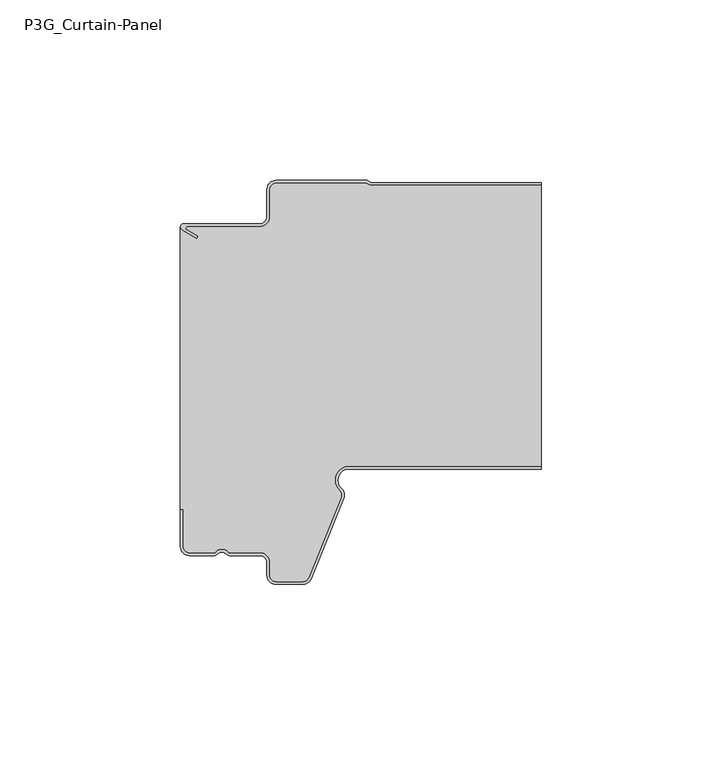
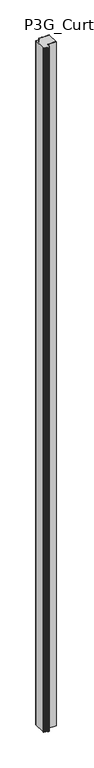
"""IFC4 building model written with IfcOpenShell, lengths in millimetres: plate geometry, P3G_Curtain-Panel : ACH_P3G_3-Rib-Roof-Panel_80M."""

import ifcopenshell
import ifcopenshell.guid

model = None  # the IFC model being written
_history = None  # IfcOwnerHistory: only IFC2X3 demands one
_inside = {}  # id of a spatial element -> (the spatial element, [elements in it])
_under = {}  # id of a project, library or spatial element -> (it, [spatial elements below it])
_declared = {}  # id of a project -> (the project, [libraries it declares])
_typed = {}  # id of a type object -> (the type object, [elements of that type])
_made_of = {}  # id of a material, layer set ... -> (it, [elements and type objects made of it])


def new_model(schema):
    """Start an empty IFC model of exactly this schema.

    Asked for "IFC4X3", IfcOpenShell would pick the latest addendum, in which some entities
    have other attributes; the version numbers below select the first issue.
    IFC2X3 requires an IfcOwnerHistory on every rooted entity: one is made here for all.
    """
    global model, _history
    if schema == "IFC4X3":
        model = ifcopenshell.file(schema_version=(4, 3, 0, 0))
    else:
        model = ifcopenshell.file(schema=schema)
    _inside.clear()
    _under.clear()
    _declared.clear()
    _typed.clear()
    _made_of.clear()
    _history = None
    if model.schema == "IFC2X3":
        org = make("IfcOrganization", Name="unknown")
        user = make(
            "IfcPersonAndOrganization",
            ThePerson=make("IfcPerson", FamilyName="unknown"),
            TheOrganization=org,
        )
        app = make(
            "IfcApplication",
            ApplicationDeveloper=org,
            Version="unknown",
            ApplicationFullName="unknown",
            ApplicationIdentifier="unknown",
        )
        _history = make(
            "IfcOwnerHistory",
            OwningUser=user,
            OwningApplication=app,
            ChangeAction="ADDED",
            CreationDate=0,
        )
    return model


def make(cls, **values):
    """One entity of the class cls with the attributes given. An attribute that is None is left unset."""
    return model.create_entity(
        cls, **{name: value for name, value in values.items() if value is not None}
    )


def rooted(cls, **values):
    """An entity with a GlobalId (a new one), such as an element, a storey or a relation."""
    return make(cls, GlobalId=ifcopenshell.guid.new(), OwnerHistory=_history, **values)


def si_unit(unit_type, name, prefix=None):
    """IfcSIUnit, for example si_unit("LENGTHUNIT", "METRE", prefix="MILLI")."""
    return make("IfcSIUnit", UnitType=unit_type, Prefix=prefix, Name=name)


def assignment(units):
    """IfcUnitAssignment: the units of a project."""
    return None if units is None else make("IfcUnitAssignment", Units=units)


def point(xyz):
    """IfcCartesianPoint."""
    return None if xyz is None else make("IfcCartesianPoint", Coordinates=xyz)


def direction(xyz):
    """IfcDirection."""
    return None if xyz is None else make("IfcDirection", DirectionRatios=xyz)


def frame(location, z_axis=None, x_axis=None):
    """IfcAxis2Placement3D, a coordinate frame: its origin and axes. An axis left out is left unset."""
    return make(
        "IfcAxis2Placement3D",
        Location=point(location),
        Axis=direction(z_axis),
        RefDirection=direction(x_axis),
    )


def frame_2d(location, x_axis=None):
    """IfcAxis2Placement2D, a coordinate frame in the plane: its origin and x axis."""
    return make(
        "IfcAxis2Placement2D", Location=point(location), RefDirection=direction(x_axis)
    )


def origin():
    """The frame at (0, 0, 0) with its axes left unset."""
    return frame((0.0, 0.0, 0.0))


def origin_with_axes():
    """The frame at (0, 0, 0) with the z axis (0, 0, 1) and the x axis (1, 0, 0) written out."""
    return frame((0.0, 0.0, 0.0), z_axis=(0.0, 0.0, 1.0), x_axis=(1.0, 0.0, 0.0))


def place(relative_to, where):
    """IfcLocalPlacement: puts the frame where relative to a parent placement (None: the world)."""
    return make(
        "IfcLocalPlacement", PlacementRelTo=relative_to, RelativePlacement=where
    )


def context(
    kind, dimensions, precision=None, world=None, true_north=None, identifier=None
):
    """IfcGeometricRepresentationContext, for example the 3D "Model" context."""
    return make(
        "IfcGeometricRepresentationContext",
        ContextIdentifier=identifier,
        ContextType=kind,
        CoordinateSpaceDimension=dimensions,
        Precision=precision,
        WorldCoordinateSystem=world,
        TrueNorth=true_north,
    )


def project(units=None, contexts=None):
    """IfcProject with its units and contexts."""
    return rooted(
        "IfcProject",
        Name="project",
        RepresentationContexts=contexts,
        UnitsInContext=assignment(units),
    )


def spatial(cls, under=None, at=None, **own):
    """A site, building, storey or space (cls), placed at a placement, below another one or the project."""
    s = rooted(cls, ObjectPlacement=at, **own)
    if under is not None:
        _under.setdefault(under.id(), (under, []))[1].append(s)
    return s


def polyline(points):
    """IfcPolyline through the points."""
    return make("IfcPolyline", Points=[point(p) for p in points])


def circle_curve(where, radius):
    """IfcCircle in the frame where."""
    return make("IfcCircle", Position=where, Radius=radius)


def trimmed(basis, trim1, trim2, sense, master):
    """IfcTrimmedCurve: the piece of a basis curve between two trims."""
    return make(
        "IfcTrimmedCurve",
        BasisCurve=basis,
        Trim1=trim1,
        Trim2=trim2,
        SenseAgreement=sense,
        MasterRepresentation=master,
    )


def segment(curve, same_sense, transition):
    """IfcCompositeCurveSegment."""
    return make(
        "IfcCompositeCurveSegment",
        Transition=transition,
        SameSense=same_sense,
        ParentCurve=curve,
    )


def composite_curve(segments, self_intersect=None):
    """IfcCompositeCurve: segments joined end to end."""
    return make("IfcCompositeCurve", Segments=segments, SelfIntersect=self_intersect)


def outline(outer, holes=None, kind="AREA"):
    """IfcArbitraryClosedProfileDef: a profile drawn as a closed curve; with holes, ...WithVoids."""
    if holes is None:
        return make("IfcArbitraryClosedProfileDef", ProfileType=kind, OuterCurve=outer)
    return make(
        "IfcArbitraryProfileDefWithVoids",
        ProfileType=kind,
        OuterCurve=outer,
        InnerCurves=holes,
    )


def extrude(swept, where, along, depth):
    """IfcExtrudedAreaSolid: the profile swept, set in the frame where, extruded along a direction by depth."""
    return make(
        "IfcExtrudedAreaSolid",
        SweptArea=swept,
        Position=where,
        ExtrudedDirection=direction(along),
        Depth=depth,
    )


def shape(context_of_items, identifier, shape_type, items):
    """IfcShapeRepresentation: the items that make up one representation, for example the "Body"."""
    return make(
        "IfcShapeRepresentation",
        ContextOfItems=context_of_items,
        RepresentationIdentifier=identifier,
        RepresentationType=shape_type,
        Items=items,
    )


def source(mapping_origin, context_of_items, identifier, shape_type, items):
    """IfcRepresentationMap: a shape defined once, which mapped items show again and again."""
    return make(
        "IfcRepresentationMap",
        MappingOrigin=mapping_origin,
        MappedRepresentation=shape(context_of_items, identifier, shape_type, items),
    )


def transform(
    local_origin,
    x_axis=None,
    y_axis=None,
    z_axis=None,
    scale=None,
    scale2=None,
    scale3=None,
    uniform=True,
):
    """IfcCartesianTransformationOperator3D, or its non-uniform kind. x_axis, y_axis, z_axis: its Axis1, 2, 3."""
    if uniform:
        return make(
            "IfcCartesianTransformationOperator3D",
            Axis1=direction(x_axis),
            Axis2=direction(y_axis),
            LocalOrigin=point(local_origin),
            Scale=scale,
            Axis3=direction(z_axis),
        )
    return make(
        "IfcCartesianTransformationOperator3DnonUniform",
        Axis1=direction(x_axis),
        Axis2=direction(y_axis),
        LocalOrigin=point(local_origin),
        Scale=scale,
        Axis3=direction(z_axis),
        Scale2=scale2,
        Scale3=scale3,
    )


def mapped(mapping_source, mapping_target):
    """IfcMappedItem: shows the shape of a source again, moved by a transform."""
    return make(
        "IfcMappedItem", MappingSource=mapping_source, MappingTarget=mapping_target
    )


def made_of(thing, what):
    """Note that an element or type object is made of a material, layer set ...; save() writes the relation."""
    if what is not None:
        _made_of.setdefault(what.id(), (what, []))[1].append(thing)
    return thing


def element(
    cls,
    number,
    at=None,
    inside=None,
    cuts=None,
    type_object=None,
    material=None,
    context=None,
    identifier="Body",
    shape_type=None,
    held_by="IfcProductDefinitionShape",
    body=None,
    shapes=None,
    **own,
):
    """One element of the class cls, such as IfcWall. Its Tag is "e" and its number.

    at: its placement. inside: the storey or other place that contains it. cuts: it is an
    opening in that element (IfcRelVoidsElement). A single representation is given by context,
    identifier, shape_type and body (its items); several are given by shapes. held_by: the class
    of the entity that holds the representations. save() writes the other relations.
    """
    e = rooted(cls, Tag="e%d" % number, ObjectPlacement=at, **own)
    if body is not None:
        shapes = [shape(context, identifier, shape_type, body)]
    if shapes is not None:
        e.Representation = make(held_by, Representations=shapes)
    if inside is not None:
        _inside.setdefault(inside.id(), (inside, []))[1].append(e)
    if cuts is not None:
        rooted(
            "IfcRelVoidsElement", RelatingBuildingElement=cuts, RelatedOpeningElement=e
        )
    if type_object is not None:
        _typed.setdefault(type_object.id(), (type_object, []))[1].append(e)
    return made_of(e, material)


def aggregate(whole, parts):
    """IfcRelAggregates: a whole, such as a stair, and the parts it consists of."""
    return rooted("IfcRelAggregates", RelatingObject=whole, RelatedObjects=parts)


def save(model, path):
    """Write the relations noted so far, then the file.

    IfcRelAggregates (storeys below a building ...), IfcRelContainedInSpatialStructure (elements
    in a storey), IfcRelDefinesByType, IfcRelAssociatesMaterial and IfcRelDeclares: one each for
    every whole, place, type object, material and project.
    """
    for whole, parts in _under.values():
        aggregate(whole, parts)
    for where, things in _inside.values():
        rooted(
            "IfcRelContainedInSpatialStructure",
            RelatedElements=things,
            RelatingStructure=where,
        )
    for kind, things in _typed.values():
        rooted("IfcRelDefinesByType", RelatedObjects=things, RelatingType=kind)
    for what, things in _made_of.values():
        rooted("IfcRelAssociatesMaterial", RelatedObjects=things, RelatingMaterial=what)
    for by, libraries in _declared.values():
        rooted("IfcRelDeclares", RelatingContext=by, RelatedDefinitions=libraries)
    model.write(path)


def p3g_curtain_panel_cf97b663(model_context):
    return source(origin(), model_context, "Body", "SweptSolid", [
        extrude(outline(composite_curve([segment(polyline([(-49.496875, -13.8660254), (-45.496875, -16.1754265), (-45.096875, -15.4826062), (-48.1272598, -13.7330127)]), True, "CONTINUOUS"), segment(trimmed(circle_curve(frame_2d((-47.8772598, -13.3)), 0.5), [point((-48.1272598, -13.7330127))], [point((-47.8772598, -12.8))], False, "CARTESIAN"), True, "CONTINUOUS"), segment(polyline([(-47.8772598, -12.8), (-27.996875, -12.8)]), True, "CONTINUOUS"), segment(trimmed(circle_curve(frame_2d((-27.996875, -10.0)), 2.8), [point((-27.996875, -12.8))], [point((-25.196875, -10.0))], True, "CARTESIAN"), True, "CONTINUOUS"), segment(polyline([(-25.196875, -10.0), (-25.196875, -2.5)]), True, "CONTINUOUS"), segment(trimmed(circle_curve(frame_2d((-23.496875, -2.5)), 1.7), [point((-25.196875, -2.5))], [point((-23.496875, -0.8))], False, "CARTESIAN"), True, "CONTINUOUS"), segment(polyline([(-23.496875, -0.8), (1.5686408, -0.8), (2.5661408, -1.4), (50.0, -1.4), (50.0, -79.2), (-3.2387629, -79.2)]), True, "CONTINUOUS"), segment(trimmed(circle_curve(frame_2d((-3.2387629, -83.1)), 3.9), [point((-3.2387629, -79.2))], [point((-5.8938106, -85.9566976))], True, "CARTESIAN"), True, "CONTINUOUS"), segment(trimmed(circle_curve(frame_2d((-7.0511391, -87.2019248)), 1.7), [point((-5.8938106, -85.9566976))], [point((-5.4749266, -87.838756))], False, "CARTESIAN"), True, "CONTINUOUS"), segment(polyline([(-5.4749266, -87.838756), (-14.4839337, -110.1368312)]), True, "CONTINUOUS"), segment(trimmed(circle_curve(frame_2d((-16.0601463, -109.5)), 1.7), [point((-14.4839337, -110.1368312))], [point((-16.0601463, -111.2))], False, "CARTESIAN"), True, "CONTINUOUS"), segment(polyline([(-16.0601463, -111.2), (-23.496875, -111.2)]), True, "CONTINUOUS"), segment(trimmed(circle_curve(frame_2d((-23.496875, -109.5)), 1.7), [point((-23.496875, -111.2))], [point((-25.196875, -109.5))], False, "CARTESIAN"), True, "CONTINUOUS"), segment(polyline([(-25.196875, -109.5), (-25.196875, -106.0)]), True, "CONTINUOUS"), segment(trimmed(circle_curve(frame_2d((-27.996875, -106.0)), 2.8), [point((-25.196875, -106.0))], [point((-27.996875, -103.2))], True, "CARTESIAN"), True, "CONTINUOUS"), segment(polyline([(-27.996875, -103.2), (-36.5995084, -103.2)]), True, "CONTINUOUS"), segment(trimmed(circle_curve(frame_2d((-38.496875, -104.5)), 2.3), [point((-36.5995084, -103.2))], [point((-40.3942416, -103.2))], True, "CARTESIAN"), True, "CONTINUOUS"), segment(polyline([(-40.3942416, -103.2), (-47.496875, -103.2)]), True, "CONTINUOUS"), segment(trimmed(circle_curve(frame_2d((-47.496875, -101.5)), 1.7), [point((-47.496875, -103.2))], [point((-49.196875, -101.5))], False, "CARTESIAN"), True, "CONTINUOUS"), segment(polyline([(-49.196875, -101.5), (-49.196875, -91.18), (-49.996875, -91.18), (-49.996875, -13.0)]), True, "CONTINUOUS"), segment(trimmed(circle_curve(frame_2d((-48.996875, -13.0)), 1.0), [point((-49.996875, -13.0))], [point((-49.496875, -13.8660254))], True, "CARTESIAN"), True, "CONTINUOUS")], self_intersect=False)), origin_with_axes(), (0.0, 0.0, 1.0), 5000.0),
        extrude(outline(composite_curve([segment(trimmed(circle_curve(frame_2d((-28.0, -10.0)), 2.0), [point((-28.0, -12.0))], [point((-26.0, -10.0))], True, "CARTESIAN"), True, "CONTINUOUS"), segment(polyline([(-26.0, -10.0), (-26.0, -2.5)]), True, "CONTINUOUS"), segment(trimmed(circle_curve(frame_2d((-23.5, -2.5)), 2.5), [point((-26.0, -2.5))], [point((-23.5, 0.0))], False, "CARTESIAN"), True, "CONTINUOUS"), segment(polyline([(-23.5, 0.0), (1.7875789, 0.0), (2.7850789, -0.6), (50.0, -0.6), (50.0, -1.4), (2.5630158, -1.4), (1.5655158, -0.8), (-23.5, -0.8)]), True, "CONTINUOUS"), segment(trimmed(circle_curve(frame_2d((-23.5, -2.5)), 1.7), [point((-23.5, -0.8))], [point((-25.2, -2.5))], True, "CARTESIAN"), True, "CONTINUOUS"), segment(polyline([(-25.2, -2.5), (-25.2, -10.0)]), True, "CONTINUOUS"), segment(trimmed(circle_curve(frame_2d((-28.0, -10.0)), 2.8), [point((-25.2, -10.0))], [point((-28.0, -12.8))], False, "CARTESIAN"), True, "CONTINUOUS"), segment(polyline([(-28.0, -12.8), (-47.8803848, -12.8)]), True, "CONTINUOUS"), segment(trimmed(circle_curve(frame_2d((-47.8803848, -13.3)), 0.5), [point((-47.8803848, -12.8))], [point((-48.1303848, -13.7330127))], True, "CARTESIAN"), True, "CONTINUOUS"), segment(polyline([(-48.1303848, -13.7330127), (-45.1, -15.4826062), (-45.5, -16.1754265), (-49.5, -13.8660254)]), True, "CONTINUOUS"), segment(trimmed(circle_curve(frame_2d((-49.0, -13.0)), 1.0), [point((-49.5, -13.8660254))], [point((-49.0, -12.0))], False, "CARTESIAN"), True, "CONTINUOUS"), segment(polyline([(-49.0, -12.0), (-28.0, -12.0)]), True, "CONTINUOUS")], self_intersect=False)), origin_with_axes(), (0.0, 0.0, 1.0), 5000.0),
        extrude(outline(composite_curve([segment(polyline([(-50.0, -101.5), (-50.0, -91.18), (-49.2, -91.18), (-49.2, -101.5)]), True, "CONTINUOUS"), segment(trimmed(circle_curve(frame_2d((-47.5, -101.5)), 1.7), [point((-49.2, -101.5))], [point((-47.5, -103.2))], True, "CARTESIAN"), True, "CONTINUOUS"), segment(polyline([(-47.5, -103.2), (-40.3973666, -103.2)]), True, "CONTINUOUS"), segment(trimmed(circle_curve(frame_2d((-38.5, -104.5)), 2.3), [point((-40.3973666, -103.2))], [point((-36.6026334, -103.2))], False, "CARTESIAN"), True, "CONTINUOUS"), segment(polyline([(-36.6026334, -103.2), (-28.0, -103.2)]), True, "CONTINUOUS"), segment(trimmed(circle_curve(frame_2d((-28.0, -106.0)), 2.8), [point((-28.0, -103.2))], [point((-25.2, -106.0))], False, "CARTESIAN"), True, "CONTINUOUS"), segment(polyline([(-25.2, -106.0), (-25.2, -109.5)]), True, "CONTINUOUS"), segment(trimmed(circle_curve(frame_2d((-23.5, -109.5)), 1.7), [point((-25.2, -109.5))], [point((-23.5, -111.2))], True, "CARTESIAN"), True, "CONTINUOUS"), segment(polyline([(-23.5, -111.2), (-16.0632713, -111.2)]), True, "CONTINUOUS"), segment(trimmed(circle_curve(frame_2d((-16.0632713, -109.5)), 1.7), [point((-16.0632713, -111.2))], [point((-14.4870587, -110.1368312))], True, "CARTESIAN"), True, "CONTINUOUS"), segment(polyline([(-14.4870587, -110.1368312), (-5.4780516, -87.838756)]), True, "CONTINUOUS"), segment(trimmed(circle_curve(frame_2d((-7.0542641, -87.2019248)), 1.7), [point((-5.4780516, -87.838756))], [point((-5.8969356, -85.9566976))], True, "CARTESIAN"), True, "CONTINUOUS"), segment(trimmed(circle_curve(frame_2d((-3.2418879, -83.1)), 3.9), [point((-5.8969356, -85.9566976))], [point((-3.2418879, -79.2))], False, "CARTESIAN"), True, "CONTINUOUS"), segment(polyline([(-3.2418879, -79.2), (50.0, -79.2), (50.0, -80.0), (-3.2418879, -80.0)]), True, "CONTINUOUS"), segment(trimmed(circle_curve(frame_2d((-3.2418879, -83.1)), 3.1), [point((-3.2418879, -80.0))], [point((-5.3523104, -85.3707084))], True, "CARTESIAN"), True, "CONTINUOUS"), segment(trimmed(circle_curve(frame_2d((-7.0542641, -87.2019248)), 2.5), [point((-5.3523104, -85.3707084))], [point((-4.7363045, -88.1384413))], False, "CARTESIAN"), True, "CONTINUOUS"), segment(polyline([(-4.7363045, -88.1384413), (-13.7453117, -110.4365165)]), True, "CONTINUOUS"), segment(trimmed(circle_curve(frame_2d((-16.0632713, -109.5)), 2.5), [point((-13.7453117, -110.4365165))], [point((-16.0632713, -112.0))], False, "CARTESIAN"), True, "CONTINUOUS"), segment(polyline([(-16.0632713, -112.0), (-23.5, -112.0)]), True, "CONTINUOUS"), segment(trimmed(circle_curve(frame_2d((-23.5, -109.5)), 2.5), [point((-23.5, -112.0))], [point((-26.0, -109.5))], False, "CARTESIAN"), True, "CONTINUOUS"), segment(polyline([(-26.0, -109.5), (-26.0, -106.0)]), True, "CONTINUOUS"), segment(trimmed(circle_curve(frame_2d((-28.0, -106.0)), 2.0), [point((-26.0, -106.0))], [point((-28.0, -104.0))], True, "CARTESIAN"), True, "CONTINUOUS"), segment(polyline([(-28.0, -104.0), (-36.263932, -104.0)]), True, "CONTINUOUS"), segment(trimmed(circle_curve(frame_2d((-36.263932, -102.5)), 1.5), [point((-36.263932, -104.0))], [point((-37.381966, -103.5))], False, "CARTESIAN"), True, "CONTINUOUS"), segment(trimmed(circle_curve(frame_2d((-38.5, -104.5)), 1.5), [point((-37.381966, -103.5))], [point((-39.618034, -103.5))], True, "CARTESIAN"), True, "CONTINUOUS"), segment(trimmed(circle_curve(frame_2d((-40.736068, -102.5)), 1.5), [point((-39.618034, -103.5))], [point((-40.736068, -104.0))], False, "CARTESIAN"), True, "CONTINUOUS"), segment(polyline([(-40.736068, -104.0), (-47.5, -104.0)]), True, "CONTINUOUS"), segment(trimmed(circle_curve(frame_2d((-47.5, -101.5)), 2.5), [point((-47.5, -104.0))], [point((-50.0, -101.5))], False, "CARTESIAN"), True, "CONTINUOUS")], self_intersect=False)), origin_with_axes(), (0.0, 0.0, 1.0), 5000.0),
    ])


if __name__ == "__main__":
    model = new_model("IFC4")
    model_context = context("Model", 3, world=origin())
    ifc_project = project(units=[si_unit("LENGTHUNIT", "METRE", prefix="MILLI")], contexts=[model_context])
    site = spatial("IfcSite", under=ifc_project)
    building = spatial("IfcBuilding", under=site)
    placement = place(None, origin())
    p3g_curtain_panel_shape = p3g_curtain_panel_cf97b663(model_context)
    element("IfcPlate", 1, ObjectType="P3G_Curtain-Panel : ACH_P3G_3-Rib-Roof-Panel_80M", at=placement, inside=building, context=model_context, shape_type="MappedRepresentation", body=[
        mapped(p3g_curtain_panel_shape, transform((0.0, 0.0, 0.0), x_axis=(1.0, 0.0, 0.0), y_axis=(0.0, 1.0, 0.0), z_axis=(0.0, 0.0, 1.0))),
    ])
    save(model, "model.ifc")
